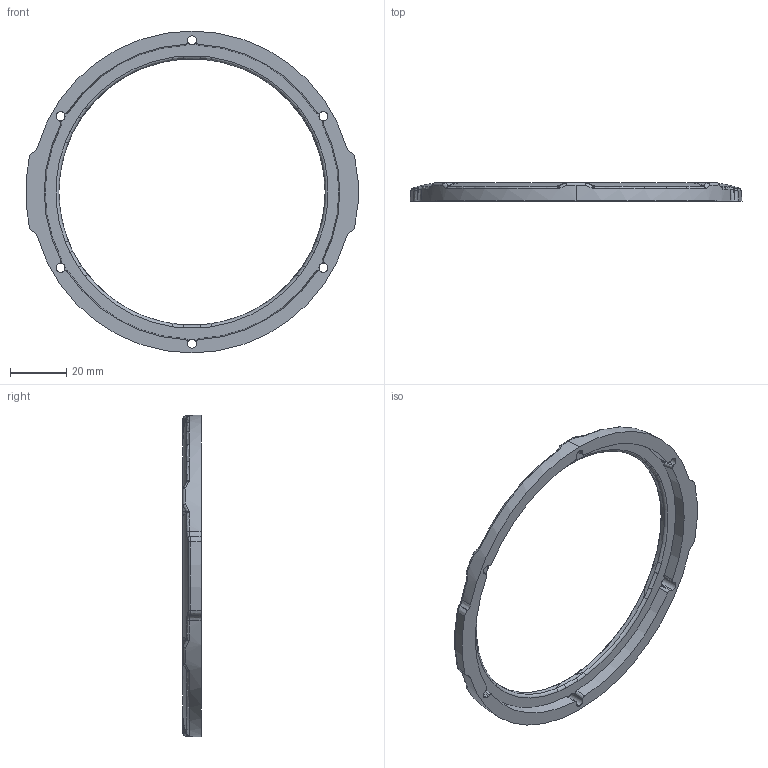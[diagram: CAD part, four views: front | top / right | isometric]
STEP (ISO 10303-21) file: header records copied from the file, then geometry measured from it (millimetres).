
FILE_DESCRIPTION (( 'STEP AP214' ), '1' );
FILE_NAME ('WTE4-P-DOME-RETAINING-RING-R1.STEP', '2018-10-16T22:46:20', ( '' ), ( '' ), 'SwSTEP 2.0', 'SolidWorks 2016', '' );
FILE_SCHEMA (( 'AUTOMOTIVE_DESIGN' ));
Length unit declared in the file: millimetre
Products named in the file (1): WTE4-P-DOME-RETAINING-RING-R1
Bounding box: 118.08 x 6.5 x 114.49 mm (x, y, z)
Volume: 13097.9 mm3; surface area: 10401.4 mm2
Topology: 1 solids, 1 shells, 300 faces, 824 edges, 496 vertices
Faces by surface type: bspline 146, torus 64, plane 36, cylinder 24, cone 18, sphere 12
Entity records: 12422 total; most frequent: CARTESIAN_POINT 6061, ORIENTED_EDGE 1600, DIRECTION 1016, EDGE_CURVE 800, VERTEX_POINT 496, AXIS2_PLACEMENT_3D 469, B_SPLINE_CURVE_WITH_KNOTS 396, CIRCLE 314
